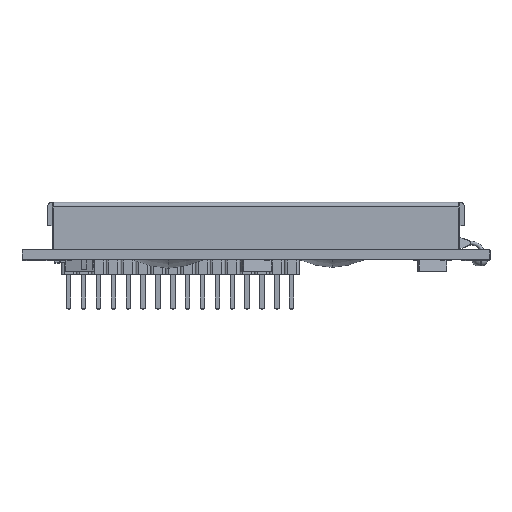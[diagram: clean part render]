
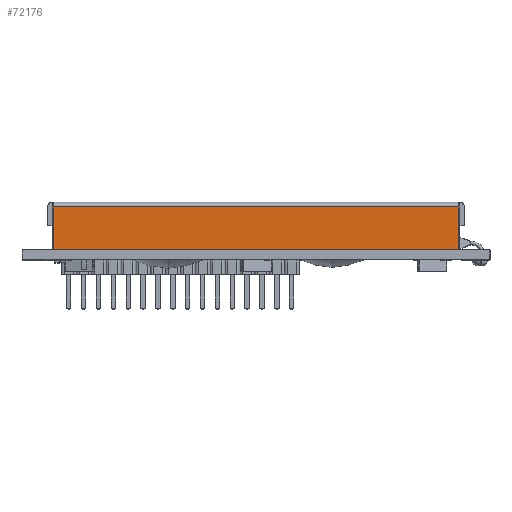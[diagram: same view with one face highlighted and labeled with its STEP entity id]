
A CAD part, top view. The second image highlights one B-rep face of the part: STEP entity #72176.
In plain terms, the highlighted planar face has unit normal (0, 0, 1).
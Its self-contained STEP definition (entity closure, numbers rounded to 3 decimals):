
#10193 = CARTESIAN_POINT ( 'NONE',  ( 34.65, 0., 13.4 ) ) ;
#10215 = CARTESIAN_POINT ( 'NONE',  ( -34.65, 0., 13.4 ) ) ;
#10267 = CARTESIAN_POINT ( 'NONE',  ( 27.75, -7.3, 13.4 ) ) ;
#10304 = CARTESIAN_POINT ( 'NONE',  ( -0.25, -7.3, 13.4 ) ) ;
#10647 = VERTEX_POINT ( 'NONE', #10267 ) ;
#10651 = VERTEX_POINT ( 'NONE', #10193 ) ;
#10652 = VERTEX_POINT ( 'NONE', #10215 ) ;
#10702 = VERTEX_POINT ( 'NONE', #10304 ) ;
#12952 = EDGE_LOOP ( 'NONE', ( #53621, #53594, #53635, #53640, #53644, #53641, #53609, #53607, #53616, #53588 ) ) ;
#17564 = AXIS2_PLACEMENT_3D ( 'NONE', #47239, #47270, #47260 ) ;
#19675 = CARTESIAN_POINT ( 'NONE',  ( -34.65, -7.3, 13.4 ) ) ;
#19720 = CARTESIAN_POINT ( 'NONE',  ( -29.75, -7.3, 13.4 ) ) ;
#19726 = DIRECTION ( 'NONE',  ( -1., 0., 0. ) ) ;
#19729 = DIRECTION ( 'NONE',  ( 1., 0., 0. ) ) ;
#19978 = DIRECTION ( 'NONE',  ( 1., 0., 0. ) ) ;
#19988 = CARTESIAN_POINT ( 'NONE',  ( -34.65, -7.3, 13.4 ) ) ;
#21521 = DIRECTION ( 'NONE',  ( -1., 0., 0. ) ) ;
#21574 = CARTESIAN_POINT ( 'NONE',  ( 0., 0., 13.4 ) ) ;
#21910 = DIRECTION ( 'NONE',  ( 0., 1., 0. ) ) ;
#22019 = CARTESIAN_POINT ( 'NONE',  ( 34.65, 0.8, 13.4 ) ) ;
#30324 = CARTESIAN_POINT ( 'NONE',  ( -34.65, -7.3, 13.4 ) ) ;
#30325 = DIRECTION ( 'NONE',  ( 1., 0., 0. ) ) ;
#30607 = CARTESIAN_POINT ( 'NONE',  ( 29.75, -7.3, 13.4 ) ) ;
#30608 = DIRECTION ( 'NONE',  ( 0., -1., 0. ) ) ;
#30610 = CARTESIAN_POINT ( 'NONE',  ( -34.65, -7.3, 13.4 ) ) ;
#30611 = DIRECTION ( 'NONE',  ( 1., 0., 0. ) ) ;
#30621 = DIRECTION ( 'NONE',  ( -1., 0., 0. ) ) ;
#30629 = CARTESIAN_POINT ( 'NONE',  ( -2.25, -7.3, 13.4 ) ) ;
#30631 = CARTESIAN_POINT ( 'NONE',  ( -34.65, 0.8, 13.4 ) ) ;
#30646 = DIRECTION ( 'NONE',  ( -1., 0., 0. ) ) ;
#30958 = VECTOR ( 'NONE', #30608, 1000. ) ;
#30960 = LINE ( 'NONE', #30610, #31006 ) ;
#30977 = VECTOR ( 'NONE', #30646, 1000. ) ;
#31001 = LINE ( 'NONE', #30631, #30958 ) ;
#31006 = VECTOR ( 'NONE', #30611, 1000. ) ;
#31014 = VECTOR ( 'NONE', #30621, 1000. ) ;
#31031 = LINE ( 'NONE', #30607, #31014 ) ;
#31048 = LINE ( 'NONE', #30629, #30977 ) ;
#31134 = VECTOR ( 'NONE', #21521, 1000. ) ;
#31146 = LINE ( 'NONE', #21574, #31134 ) ;
#31245 = LINE ( 'NONE', #22019, #31307 ) ;
#31307 = VECTOR ( 'NONE', #21910, 1000. ) ;
#32200 = FACE_OUTER_BOUND ( 'NONE', #12952, .T. ) ;
#32726 = LINE ( 'NONE', #30324, #32832 ) ;
#32832 = VECTOR ( 'NONE', #30325, 1000. ) ;
#38000 = VERTEX_POINT ( 'NONE', #72870 ) ;
#38003 = VERTEX_POINT ( 'NONE', #72872 ) ;
#38011 = VERTEX_POINT ( 'NONE', #72853 ) ;
#38017 = VERTEX_POINT ( 'NONE', #72859 ) ;
#38042 = VERTEX_POINT ( 'NONE', #72878 ) ;
#38060 = VERTEX_POINT ( 'NONE', #72905 ) ;
#47239 = CARTESIAN_POINT ( 'NONE',  ( 0., 0., 13.4 ) ) ;
#47259 = PLANE ( 'NONE',  #17564 ) ;
#47260 = DIRECTION ( 'NONE',  ( 1., 0., 0. ) ) ;
#47270 = DIRECTION ( 'NONE',  ( 0., 0., 1. ) ) ;
#53588 = ORIENTED_EDGE ( 'NONE', *, *, #75266, .T. ) ;
#53594 = ORIENTED_EDGE ( 'NONE', *, *, #74905, .T. ) ;
#53607 = ORIENTED_EDGE ( 'NONE', *, *, #74885, .T. ) ;
#53609 = ORIENTED_EDGE ( 'NONE', *, *, #74860, .F. ) ;
#53616 = ORIENTED_EDGE ( 'NONE', *, *, #74874, .F. ) ;
#53621 = ORIENTED_EDGE ( 'NONE', *, *, #74959, .T. ) ;
#53635 = ORIENTED_EDGE ( 'NONE', *, *, #74876, .T. ) ;
#53640 = ORIENTED_EDGE ( 'NONE', *, *, #74663, .T. ) ;
#53641 = ORIENTED_EDGE ( 'NONE', *, *, #75214, .T. ) ;
#53644 = ORIENTED_EDGE ( 'NONE', *, *, #75232, .F. ) ;
#72176 = ADVANCED_FACE ( 'NONE', ( #32200 ), #47259, .T. ) ;
#72853 = CARTESIAN_POINT ( 'NONE',  ( 34.65, -7.3, 13.4 ) ) ;
#72859 = CARTESIAN_POINT ( 'NONE',  ( -34.65, -7.3, 13.4 ) ) ;
#72870 = CARTESIAN_POINT ( 'NONE',  ( -2.25, -7.3, 13.4 ) ) ;
#72872 = CARTESIAN_POINT ( 'NONE',  ( 29.75, -7.3, 13.4 ) ) ;
#72878 = CARTESIAN_POINT ( 'NONE',  ( -27.75, -7.3, 13.4 ) ) ;
#72905 = CARTESIAN_POINT ( 'NONE',  ( -29.75, -7.3, 13.4 ) ) ;
#74663 = EDGE_CURVE ( 'NONE', #38017, #38060, #32726, .T. ) ;
#74860 = EDGE_CURVE ( 'NONE', #10702, #38000, #31048, .T. ) ;
#74874 = EDGE_CURVE ( 'NONE', #38003, #10647, #31031, .T. ) ;
#74876 = EDGE_CURVE ( 'NONE', #10652, #38017, #31001, .T. ) ;
#74885 = EDGE_CURVE ( 'NONE', #10702, #10647, #30960, .T. ) ;
#74905 = EDGE_CURVE ( 'NONE', #10651, #10652, #31146, .T. ) ;
#74959 = EDGE_CURVE ( 'NONE', #38011, #10651, #31245, .T. ) ;
#75214 = EDGE_CURVE ( 'NONE', #38042, #38000, #84009, .T. ) ;
#75232 = EDGE_CURVE ( 'NONE', #38042, #38060, #84129, .T. ) ;
#75266 = EDGE_CURVE ( 'NONE', #38003, #38011, #84117, .T. ) ;
#83923 = VECTOR ( 'NONE', #19729, 1000. ) ;
#84009 = LINE ( 'NONE', #19675, #83923 ) ;
#84061 = VECTOR ( 'NONE', #19726, 1000. ) ;
#84117 = LINE ( 'NONE', #19988, #84133 ) ;
#84129 = LINE ( 'NONE', #19720, #84061 ) ;
#84133 = VECTOR ( 'NONE', #19978, 1000. ) ;
